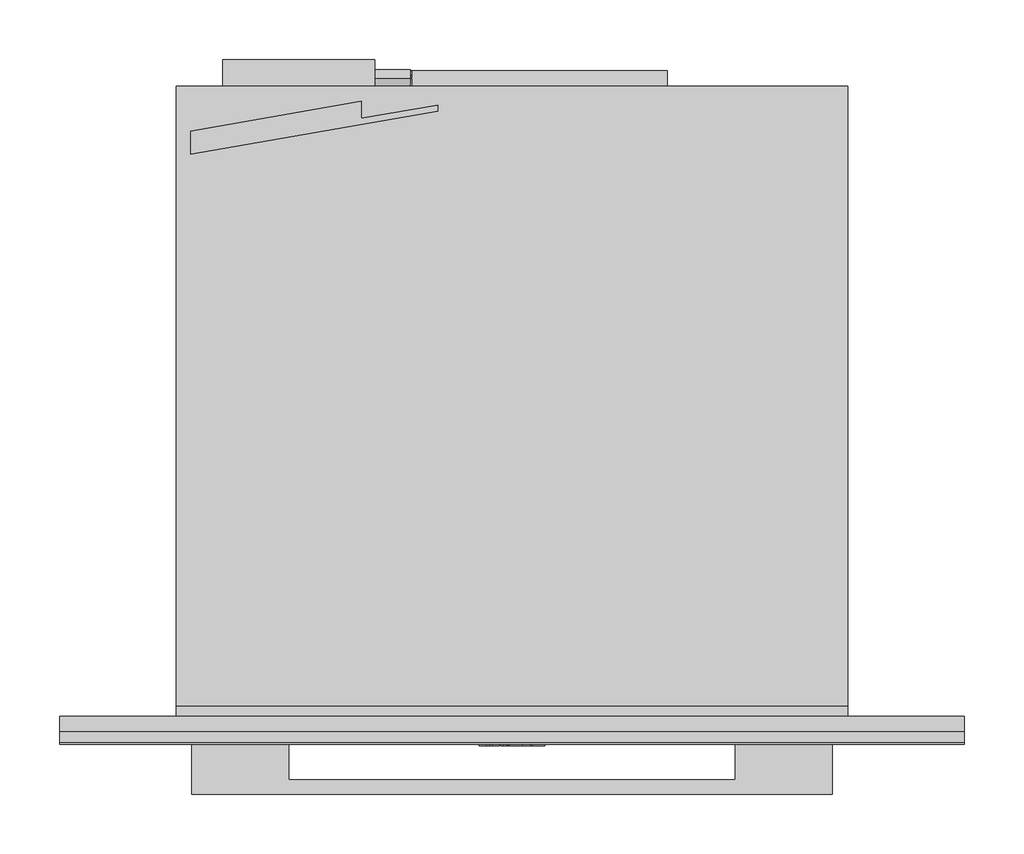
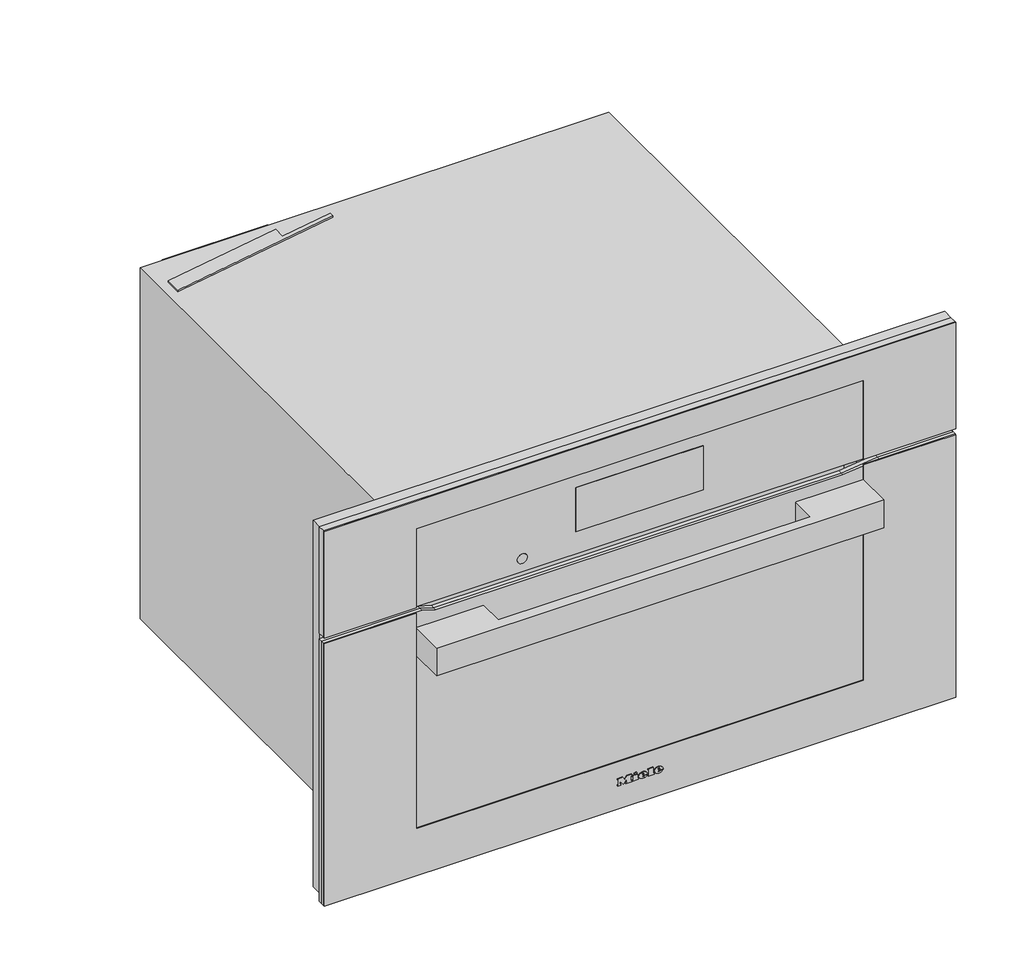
# Not in any storey: 1 proxy.
"""IFC4 building model written with IfcOpenShell, lengths in millimetres."""

from ifc_helpers import new_model, si_unit, origin, place, context, project, spatial, transform, mapped, element, save
from components import specialty_equipment_66f69a2f

model = new_model("IFC4")

# Units and contexts
model_context = context("Model", 3, world=origin())
ifc_project = project(units=[si_unit("LENGTHUNIT", "METRE", prefix="MILLI")], contexts=[model_context])

# Site, building
site = spatial("IfcSite", under=ifc_project)
building = spatial("IfcBuilding", under=site)

# Proxy
placement = place(None, origin())
specialty_equipment_shape = specialty_equipment_66f69a2f(model_context)
element("IfcBuildingElementProxy", 1, Name="11804620_USA_H7770BM_EDST-CLST : 22777046_USA_11804620_H7770BM_EDST-CLST", ObjectType="11804620_USA_H7770BM_EDST-CLST : 22777046_USA_11804620_H7770BM_EDST-CLST", at=placement, inside=building, context=model_context, shape_type="MappedRepresentation", body=[
    mapped(specialty_equipment_shape, transform((0.0, 0.0, 0.0), x_axis=(1.0, 0.0, 0.0), y_axis=(0.0, 1.0, 0.0), z_axis=(0.0, 0.0, 1.0))),
])

save(model, "model.ifc")
